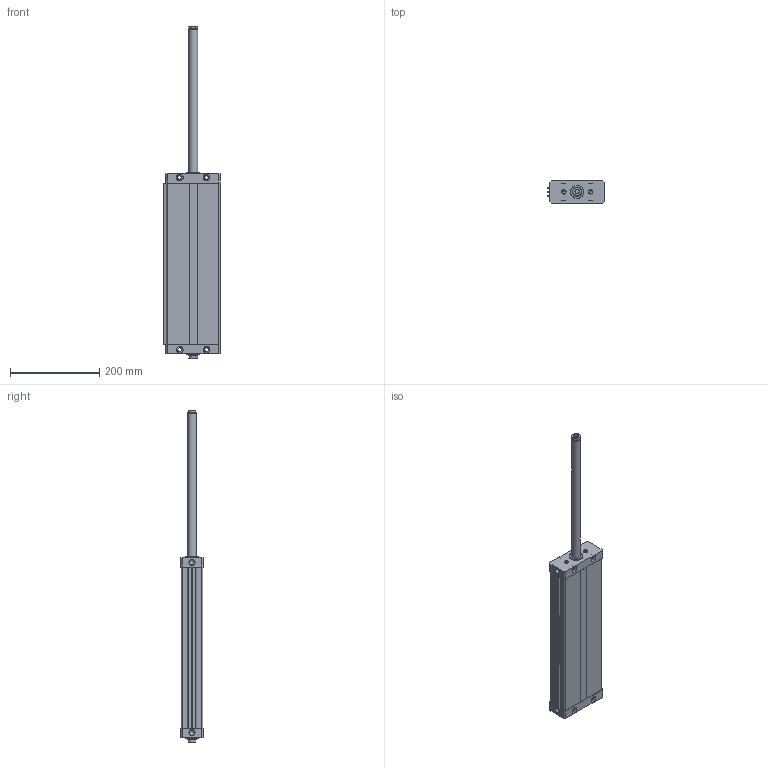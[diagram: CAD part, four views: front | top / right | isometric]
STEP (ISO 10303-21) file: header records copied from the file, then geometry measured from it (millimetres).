
FILE_DESCRIPTION((''),'2;1');
FILE_NAME('I:\Area Tecnica\Disegni\VARIE-3D\Componenti\1370 - CPO\1370_##_0000_03\1370_63_0320_03-01.iam.step','2010-12-16T11:02:10',(''),(''),'Autodesk Inventor 2011','Autodesk Inventor 2011','');
FILE_SCHEMA(('AUTOMOTIVE_DESIGN { 1 0 10303 214 1 1 1 1 }'));
Length unit declared in the file: millimetre
Products named in the file (5): 1370_63_0320_03-01; 1370_05_63_0000; 1370_06_63_0320; 1370_08_63_0000; 1370_3_63_0320
Assembly tree (4 placements, depth 2):
  1370_63_0320_03-01
    1370_05_63_0000
    1370_06_63_0320
    1370_08_63_0000
    1370_3_63_0320
Bounding box: 126.75 x 50 x 742 mm (x, y, z)
Volume: 1529188.1 mm3; surface area: 341945.6 mm2
Topology: 4 solids, 4 shells, 164 faces, 398 edges, 252 vertices
Faces by surface type: plane 94, cylinder 50, cone 20
Full cylindrical faces by diameter (mm): 8.5 x20, 10.3 x2, 11.75 x2, 15 x8, 20 x4, 30 x2
Entity records: 4722 total; most frequent: DIRECTION 794, CARTESIAN_POINT 737, ORIENTED_EDGE 652, EDGE_CURVE 326, AXIS2_PLACEMENT_3D 295, EDGE_LOOP 254, VERTEX_POINT 238, VECTOR 204
